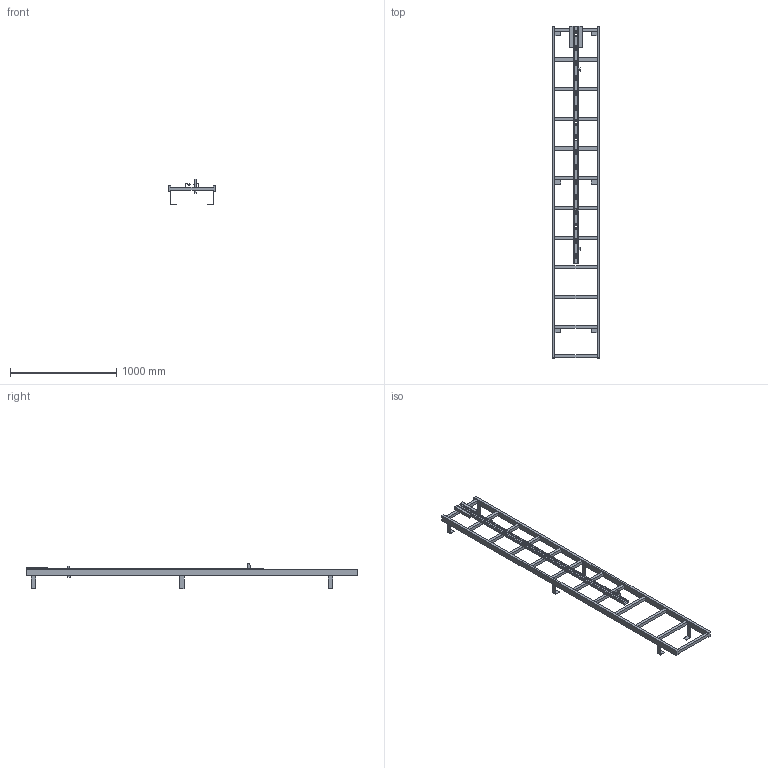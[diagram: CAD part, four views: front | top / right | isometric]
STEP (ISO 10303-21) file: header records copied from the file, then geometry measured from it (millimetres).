
FILE_DESCRIPTION((''),'2;1');
FILE_NAME('52329960','2024-12-05T07:24:39',('wep'),('HUBER SE'),'CREO PARAMETRIC BY PTC INC, 2022162','CREO PARAMETRIC BY PTC INC, 2022162','');
FILE_SCHEMA(('AUTOMOTIVE_DESIGN { 1 0 10303 214 1 1 1 1 }'));
Length unit declared in the file: millimetre
Products named in the file (1): 52329960
Bounding box: 450 x 3130 x 239 mm (x, y, z)
Volume: 13705416 mm3; surface area: 2328776.9 mm2
Topology: 2 solids, 2 shells, 220 faces, 638 edges, 416 vertices
Faces by surface type: plane 220
Entity records: 7741 total; most frequent: CARTESIAN_POINT 1276, ORIENTED_EDGE 1276, DIRECTION 1078, VECTOR 638, LINE 638, EDGE_CURVE 638, VERTEX_POINT 416, EDGE_LOOP 272
